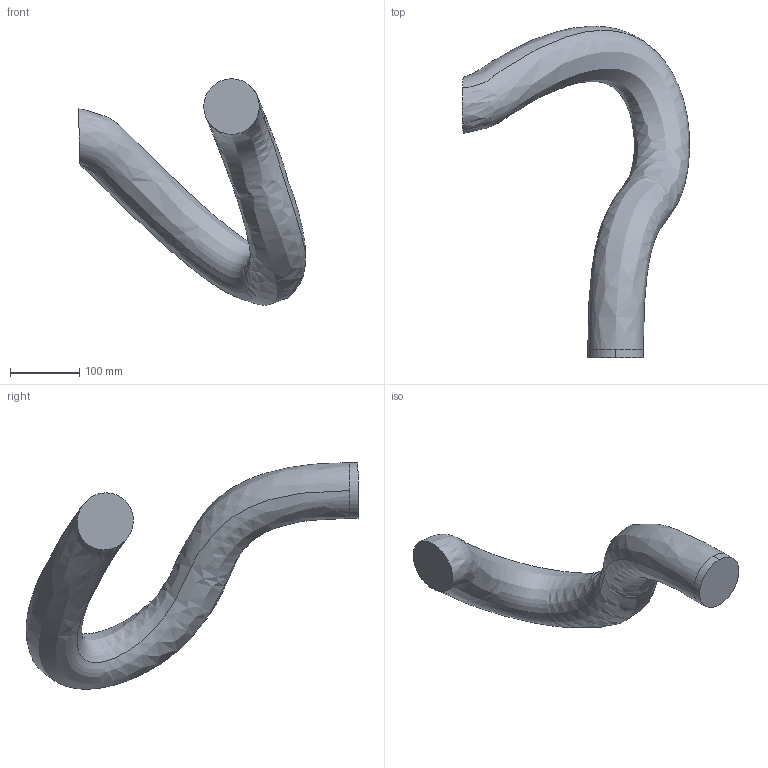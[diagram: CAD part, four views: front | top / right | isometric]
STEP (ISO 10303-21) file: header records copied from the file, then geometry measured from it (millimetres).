
FILE_DESCRIPTION (( 'STEP AP214' ), '1' );
FILE_NAME ('IRB6720-LID_215kg-265_OC_00_LINK05_CABLE.step', '2026-05-26T08:20:07', ( '' ), ( '' ), 'SwSTEP 2.0', 'SolidWorks 2024', '' );
FILE_SCHEMA (( 'AUTOMOTIVE_DESIGN' ));
Length unit declared in the file: millimetre
Products named in the file (1): IRB6720-LID_215kg-265_OC_00_LINK05_CABLE
Bounding box: 327.08 x 478.25 x 326.16 mm (x, y, z)
Volume: 4414664.4 mm3; surface area: 230757 mm2
Topology: 1 solids, 1 shells, 6 faces, 12 edges, 8 vertices
Faces by surface type: cylinder 2, bspline 2, plane 2
Entity records: 2303 total; most frequent: CARTESIAN_POINT 2161, ORIENTED_EDGE 24, DIRECTION 24, EDGE_CURVE 12, AXIS2_PLACEMENT_3D 11, VERTEX_POINT 8, EDGE_LOOP 6, ADVANCED_FACE 6
